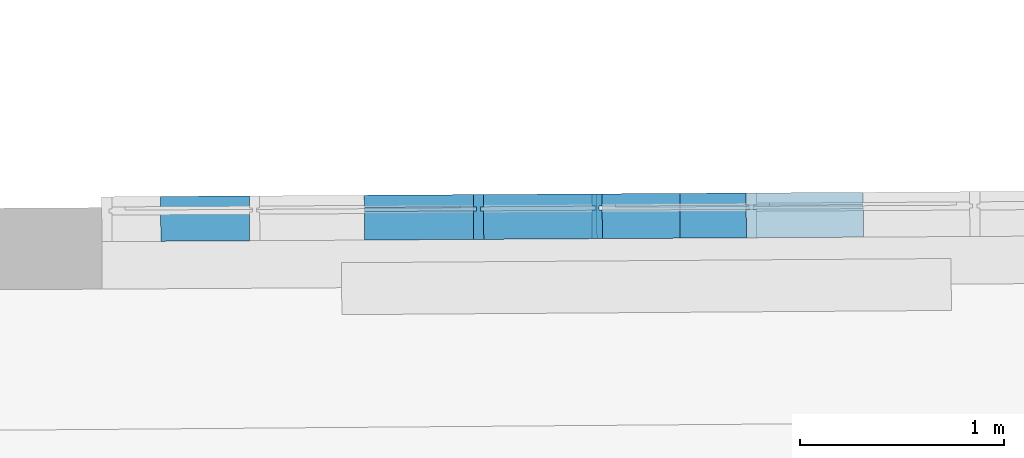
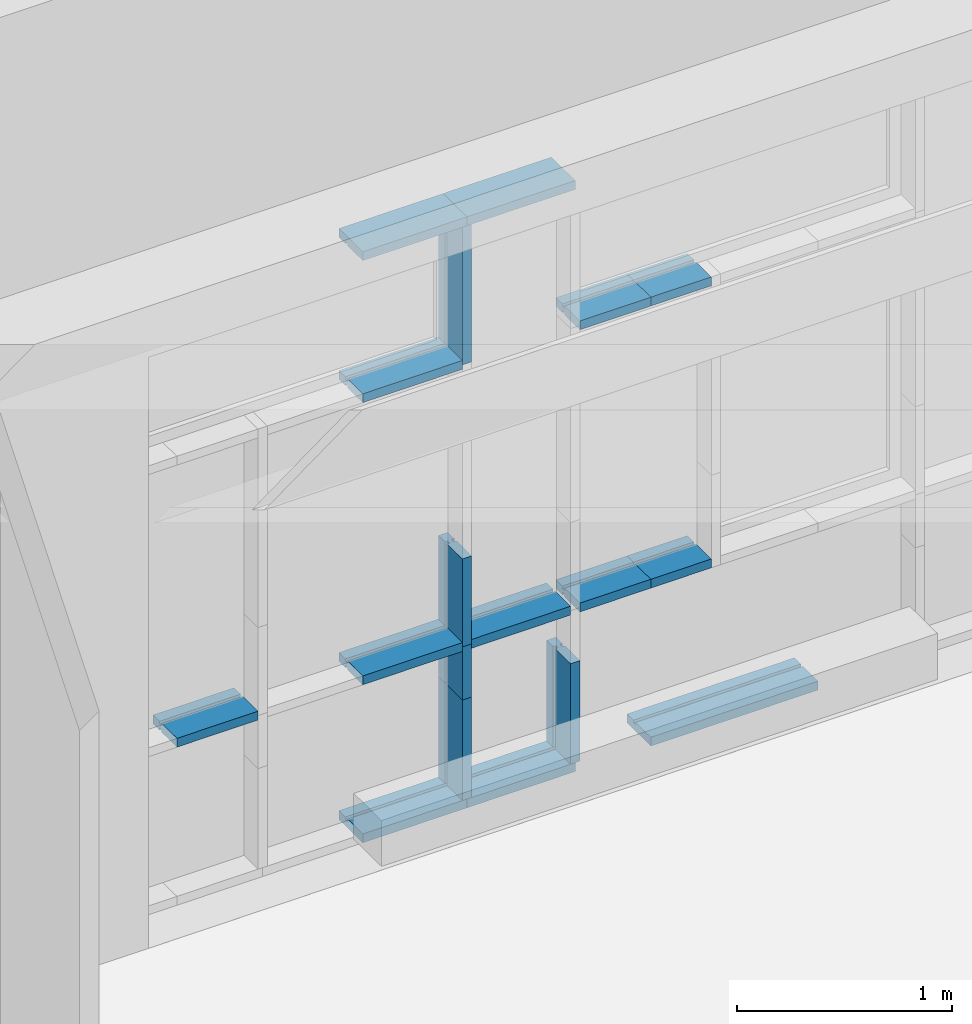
# One storey, part 163 of 196: 18 building element parts, 1 element without a shape of its own.
"""IFC2X3 building model written with IfcOpenShell, lengths in metres."""

from ifc_helpers import new_model, entity, si_unit, converted_unit, derived_unit, money_unit, direction, frame, origin_with_axes, place, context, subcontext, project, spatial, faceted_brep, material, type_object, element, aggregate, save


model = new_model("IFC2X3")

# Units and contexts
model_context = context("Model", 3, precision=1e-05, world=origin_with_axes(), true_north=direction((0.0, 1.0)))
body_context = subcontext(model_context, "Body", "Model", "MODEL_VIEW")
ifc_project = project(units=[si_unit("LENGTHUNIT", "METRE"), si_unit("AREAUNIT", "SQUARE_METRE"), si_unit("VOLUMEUNIT", "CUBIC_METRE"), converted_unit("PLANEANGLEUNIT", "DEGREE", entity("IfcPlaneAngleMeasure", 0.0174532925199), si_unit("PLANEANGLEUNIT", "RADIAN"), dimensions=[0, 0, 0, 0, 0, 0, 0]), money_unit("EUR"), converted_unit("TIMEUNIT", "Year", entity("IfcTimeMeasure", 31556926.0), si_unit("TIMEUNIT", "SECOND"), dimensions=[0, 0, 1, 0, 0, 0, 0]), si_unit("MASSUNIT", "GRAM", prefix="KILO"), si_unit("THERMODYNAMICTEMPERATUREUNIT", "DEGREE_CELSIUS"), si_unit("LUMINOUSINTENSITYUNIT", "LUMEN"), si_unit("ENERGYUNIT", "JOULE", prefix="MEGA"), derived_unit("THERMALCONDUCTANCEUNIT", [(si_unit("POWERUNIT", "WATT"), 1), (si_unit("LENGTHUNIT", "METRE"), -1), (si_unit("THERMODYNAMICTEMPERATUREUNIT", "KELVIN"), -1)]), derived_unit("SPECIFICHEATCAPACITYUNIT", [(si_unit("ENERGYUNIT", "JOULE"), 1), (si_unit("MASSUNIT", "GRAM", prefix="KILO"), -1), (si_unit("THERMODYNAMICTEMPERATUREUNIT", "KELVIN"), -1)]), derived_unit("MASSDENSITYUNIT", [(si_unit("MASSUNIT", "GRAM", prefix="KILO"), 1), (si_unit("VOLUMEUNIT", "CUBIC_METRE"), -1)])], contexts=[model_context])

# Site, building, storey
site_placement = place(None, origin_with_axes())
site = spatial("IfcSite", under=ifc_project, at=site_placement, Name="Gelände", CompositionType="ELEMENT")
building_placement = place(site_placement, origin_with_axes())
building = spatial("IfcBuilding", under=site, at=building_placement, Name="Gebäude", CompositionType="ELEMENT")
storey_placement = place(building_placement, frame((0.0, 0.0, -3.0), z_axis=(0.0, 0.0, 1.0), x_axis=(1.0, 0.0, 0.0)))
storey = spatial("IfcBuildingStorey", under=building, at=storey_placement, Name="KELLERGESCHOSS", CompositionType="ELEMENT", Elevation=-3.0)

# Proxy, building element parts
building_element_proxy_type = type_object("IfcBuildingElementProxyType", Name="Fassadentyp", PredefinedType="NOTDEFINED")
proxy_placement = place(storey_placement, frame((-23.6479994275, 53.9595773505, 0.421025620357), z_axis=(0.0, 0.0, 1.0), x_axis=(1.0, 0.0, 0.0)))
proxy = element("IfcBuildingElementProxy", 1, at=proxy_placement, inside=storey, type_object=building_element_proxy_type, Name="Fassade-002")
ifc_material = material(Name="53_Metall, Aluminium")
building_element_part_1_placement = place(proxy_placement, origin_with_axes())
building_element_part_1 = element("IfcBuildingElementPart", 2, at=building_element_part_1_placement, material=ifc_material, Name="53_Metall, Aluminium", context=body_context, shape_type="Brep", body=[
    faceted_brep([(-0.00820228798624, -0.0100486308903, 2.50999998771), (-0.00820228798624, -0.0100486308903, 2.49499998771), (-0.00737522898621, -0.150046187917, 2.49499998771), (-0.00737522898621, -0.150046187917, 2.54499998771), (-0.00820228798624, -0.0100486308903, 2.54499998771), (-0.00820228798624, -0.0100486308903, 2.52999998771), (-0.00832043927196, 0.00995102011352, 2.52999998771), (-0.00832043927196, 0.00995102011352, 2.54499998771), (-0.00867489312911, 0.0699499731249, 2.54499998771), (-0.00867489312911, 0.0699499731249, 2.49499998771), (-0.00832043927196, 0.00995102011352, 2.49499998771), (-0.00832043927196, 0.00995102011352, 2.50999998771), (0.527546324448, -0.00688360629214, 2.50999998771), (0.527546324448, -0.00688360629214, 2.49499998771), (0.528373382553, -0.146881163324, 2.49499998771), (0.528373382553, -0.146881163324, 2.54499998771), (0.527546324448, -0.00688360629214, 2.54499998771), (0.527546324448, -0.00688360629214, 2.52999998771), (0.52742817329, 0.0131160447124, 2.52999998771), (0.52742817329, 0.0131160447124, 2.54499998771), (0.527073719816, 0.0731149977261, 2.54499998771), (0.527073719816, 0.0731149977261, 2.49499998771), (0.52742817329, 0.0131160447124, 2.49499998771), (0.52742817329, 0.0131160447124, 2.50999998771)], [[[0, 1, 2, 3, 4, 5, 6, 7, 8, 9, 10, 11]], [[1, 0, 12, 13]], [[1, 13, 14, 2]], [[2, 14, 15, 3]], [[4, 3, 15, 16]], [[4, 16, 17, 5]], [[5, 17, 18, 6]], [[7, 6, 18, 19]], [[19, 20, 8, 7]], [[8, 20, 21, 9]], [[22, 10, 9, 21]], [[11, 10, 22, 23]], [[0, 11, 23, 12]], [[23, 22, 21, 20, 19, 18, 17, 16, 15, 14, 13, 12]]]),
])
building_element_part_2_placement = place(proxy_placement, origin_with_axes())
building_element_part_2 = element("IfcBuildingElementPart", 3, at=building_element_part_2_placement, material=ifc_material, Name="53_Metall, Aluminium", context=body_context, shape_type="Brep", body=[
    faceted_brep([(1.54177066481, -0.000891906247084, 2.50999998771), (1.54177066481, -0.000891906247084, 2.49499998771), (1.54259772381, -0.140889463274, 2.49499998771), (1.54259772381, -0.140889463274, 2.54499998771), (1.54177066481, -0.000891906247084, 2.54499998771), (1.54177066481, -0.000891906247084, 2.52999998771), (1.54165251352, 0.0191077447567, 2.52999998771), (1.54165251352, 0.0191077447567, 2.54499998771), (1.54129805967, 0.0791066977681, 2.54499998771), (1.54129805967, 0.0791066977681, 2.49499998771), (1.54165251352, 0.0191077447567, 2.49499998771), (1.54165251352, 0.0191077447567, 2.50999998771), (1.86695947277, 0.00102920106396, 2.50999998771), (1.86695947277, 0.00102920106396, 2.49499998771), (1.86778652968, -0.138968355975, 2.49499998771), (1.86778652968, -0.138968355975, 2.54499998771), (1.86695947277, 0.00102920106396, 2.54499998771), (1.86695947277, 0.00102920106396, 2.52999998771), (1.86684132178, 0.0210288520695, 2.52999998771), (1.86684132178, 0.0210288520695, 2.54499998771), (1.86648686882, 0.0810278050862, 2.54499998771), (1.86648686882, 0.0810278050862, 2.49499998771), (1.86684132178, 0.0210288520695, 2.49499998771), (1.86684132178, 0.0210288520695, 2.50999998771)], [[[0, 1, 2, 3, 4, 5, 6, 7, 8, 9, 10, 11]], [[1, 0, 12, 13]], [[1, 13, 14, 2]], [[2, 14, 15, 3]], [[4, 3, 15, 16]], [[4, 16, 17, 5]], [[5, 17, 18, 6]], [[7, 6, 18, 19]], [[19, 20, 8, 7]], [[8, 20, 21, 9]], [[22, 10, 9, 21]], [[11, 10, 22, 23]], [[0, 11, 23, 12]], [[23, 22, 21, 20, 19, 18, 17, 16, 15, 14, 13, 12]]]),
])
building_element_part_3_placement = place(proxy_placement, origin_with_axes())
building_element_part_3 = element("IfcBuildingElementPart", 4, at=building_element_part_3_placement, material=ifc_material, Name="53_Metall, Aluminium", context=body_context, shape_type="Brep", body=[
    faceted_brep([(1.54177066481, -0.000891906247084, 0.034999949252), (1.54165251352, 0.0191077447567, 0.034999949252), (1.54165251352, 0.0191077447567, 0.049999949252), (1.54129805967, 0.0791066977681, 0.049999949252), (1.54129805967, 0.0791066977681, -5.07479946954e-08), (1.54259772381, -0.140889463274, -5.07479946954e-08), (1.54259772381, -0.140889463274, 0.049999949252), (1.54177066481, -0.000891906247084, 0.049999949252), (2.44175496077, 0.00442490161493, 0.034999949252), (2.44163680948, 0.0244245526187, 0.034999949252), (2.44163680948, 0.0244245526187, 0.049999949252), (2.44128235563, 0.0844235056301, 0.049999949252), (2.44128235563, 0.0844235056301, -5.07479946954e-08), (2.44258201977, -0.135572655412, -5.07479946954e-08), (2.44258201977, -0.135572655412, 0.049999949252), (2.44175496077, 0.00442490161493, 0.049999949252)], [[[0, 1, 2, 3, 4, 5, 6, 7]], [[1, 0, 8, 9]], [[10, 2, 1, 9]], [[2, 10, 11, 3]], [[12, 4, 3, 11]], [[13, 5, 4, 12]], [[14, 6, 5, 13]], [[15, 7, 6, 14]], [[0, 7, 15, 8]], [[8, 15, 14, 13, 12, 11, 10, 9]]]),
])
building_element_part_4_placement = place(proxy_placement, origin_with_axes())
building_element_part_4 = element("IfcBuildingElementPart", 5, at=building_element_part_4_placement, material=ifc_material, Name="53_Metall, Aluminium", context=body_context, shape_type="Brep", body=[
    faceted_brep([(0.542546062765, -0.00679499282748, 3.2999998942), (0.527546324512, -0.00688360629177, 3.2999998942), (0.528373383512, -0.146881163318, 3.2999998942), (0.578372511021, -0.146585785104, 3.2999998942), (0.577545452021, -0.00658822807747, 3.2999998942), (0.562545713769, -0.00667684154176, 3.2999998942), (0.562427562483, 0.013322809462, 3.2999998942), (0.577427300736, 0.0134114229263, 3.2999998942), (0.577072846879, 0.0734103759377, 3.2999998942), (0.527073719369, 0.0731149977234, 3.2999998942), (0.527428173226, 0.013116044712, 3.2999998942), (0.542427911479, 0.0132046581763, 3.2999998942), (0.542546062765, -0.00679499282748, 2.51999998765), (0.527546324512, -0.00688360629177, 2.51999998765), (0.528373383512, -0.146881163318, 2.51999998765), (0.578372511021, -0.146585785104, 2.51999998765), (0.577545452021, -0.00658822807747, 2.51999998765), (0.562545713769, -0.00667684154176, 2.51999998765), (0.562427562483, 0.013322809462, 2.51999998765), (0.577427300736, 0.0134114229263, 2.51999998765), (0.577072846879, 0.0734103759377, 2.51999998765), (0.527073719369, 0.0731149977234, 2.51999998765), (0.527428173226, 0.013116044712, 2.51999998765), (0.542427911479, 0.0132046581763, 2.51999998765)], [[[0, 1, 2, 3, 4, 5, 6, 7, 8, 9, 10, 11]], [[1, 0, 12, 13]], [[1, 13, 14, 2]], [[3, 2, 14, 15]], [[4, 3, 15, 16]], [[4, 16, 17, 5]], [[5, 17, 18, 6]], [[7, 6, 18, 19]], [[19, 20, 8, 7]], [[9, 8, 20, 21]], [[22, 10, 9, 21]], [[11, 10, 22, 23]], [[0, 11, 23, 12]], [[23, 22, 21, 20, 19, 18, 17, 16, 15, 14, 13, 12]]]),
])
building_element_part_5_placement = place(proxy_placement, origin_with_axes())
building_element_part_5 = element("IfcBuildingElementPart", 6, at=building_element_part_5_placement, material=ifc_material, Name="53_Metall, Aluminium", context=body_context, shape_type="Brep", body=[
    faceted_brep([(-0.00820228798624, -0.0100486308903, 0.034999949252), (-0.00832043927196, 0.00995102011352, 0.034999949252), (-0.00832043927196, 0.00995102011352, 0.049999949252), (-0.00867489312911, 0.0699499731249, 0.049999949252), (-0.00867489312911, 0.0699499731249, -5.07479942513e-08), (-0.00737522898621, -0.150046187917, -5.07479942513e-08), (-0.00737522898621, -0.150046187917, 0.049999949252), (-0.00820228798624, -0.0100486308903, 0.049999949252), (0.552545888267, -0.00673591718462, 0.034999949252), (0.552427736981, 0.0132637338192, 0.034999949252), (0.552427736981, 0.0132637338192, 0.049999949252), (0.552073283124, 0.0732626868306, 0.049999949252), (0.552073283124, 0.0732626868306, -5.07479942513e-08), (0.553372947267, -0.146733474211, -5.07479942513e-08), (0.553372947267, -0.146733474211, 0.049999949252), (0.552545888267, -0.00673591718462, 0.049999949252)], [[[0, 1, 2, 3, 4, 5, 6, 7]], [[1, 0, 8, 9]], [[10, 2, 1, 9]], [[2, 10, 11, 3]], [[12, 4, 3, 11]], [[13, 5, 4, 12]], [[14, 6, 5, 13]], [[15, 7, 6, 14]], [[0, 7, 15, 8]], [[8, 15, 14, 13, 12, 11, 10, 9]]]),
])
building_element_part_6_placement = place(proxy_placement, origin_with_axes())
building_element_part_6 = element("IfcBuildingElementPart", 7, at=building_element_part_6_placement, material=ifc_material, Name="53_Metall, Aluminium", context=body_context, shape_type="Brep", body=[
    faceted_brep([(1.15984102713, -0.00314821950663, 2.50999998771), (1.15984102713, -0.00314821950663, 2.49499998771), (1.16066808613, -0.143145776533, 2.49499998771), (1.16066808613, -0.143145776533, 2.54499998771), (1.15984102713, -0.00314821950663, 2.54499998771), (1.15984102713, -0.00314821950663, 2.52999998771), (1.15972287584, 0.0168514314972, 2.52999998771), (1.15972287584, 0.0168514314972, 2.54499998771), (1.15936842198, 0.0768503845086, 2.54499998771), (1.15936842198, 0.0768503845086, 2.49499998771), (1.15972287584, 0.0168514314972, 2.49499998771), (1.15972287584, 0.0168514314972, 2.50999998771), (1.54177066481, -0.000891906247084, 2.50999998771), (1.54177066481, -0.000891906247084, 2.49499998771), (1.54259772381, -0.140889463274, 2.49499998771), (1.54259772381, -0.140889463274, 2.54499998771), (1.54177066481, -0.000891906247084, 2.54499998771), (1.54177066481, -0.000891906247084, 2.52999998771), (1.54165251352, 0.0191077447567, 2.52999998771), (1.54165251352, 0.0191077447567, 2.54499998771), (1.54129805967, 0.0791066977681, 2.54499998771), (1.54129805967, 0.0791066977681, 2.49499998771), (1.54165251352, 0.0191077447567, 2.49499998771), (1.54165251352, 0.0191077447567, 2.50999998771)], [[[0, 1, 2, 3, 4, 5, 6, 7, 8, 9, 10, 11]], [[1, 0, 12, 13]], [[1, 13, 14, 2]], [[3, 2, 14, 15]], [[4, 3, 15, 16]], [[4, 16, 17, 5]], [[5, 17, 18, 6]], [[7, 6, 18, 19]], [[19, 20, 8, 7]], [[9, 8, 20, 21]], [[22, 10, 9, 21]], [[11, 10, 22, 23]], [[0, 11, 23, 12]], [[23, 22, 21, 20, 19, 18, 17, 16, 15, 14, 13, 12]]]),
])
building_element_part_7_placement = place(proxy_placement, origin_with_axes())
building_element_part_7 = element("IfcBuildingElementPart", 8, at=building_element_part_7_placement, material=ifc_material, Name="53_Metall, Aluminium", context=body_context, shape_type="Brep", body=[
    faceted_brep([(0.542546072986, -0.0067949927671, 1.41999998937), (0.527546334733, -0.00688360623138, 1.41999998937), (0.528373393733, -0.146881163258, 1.41999998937), (0.578372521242, -0.146585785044, 1.41999998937), (0.577545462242, -0.00658822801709, 1.41999998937), (0.562545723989, -0.00667684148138, 1.41999998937), (0.562427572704, 0.0133228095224, 1.41999998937), (0.577427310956, 0.0134114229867, 1.41999998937), (0.577072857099, 0.0734103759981, 1.41999998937), (0.52707372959, 0.0731149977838, 1.41999998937), (0.527428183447, 0.0131160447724, 1.41999998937), (0.5424279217, 0.0132046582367, 1.41999998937), (0.542546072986, -0.0067949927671, 0.920851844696), (0.527546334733, -0.00688360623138, 0.920851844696), (0.528373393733, -0.146881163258, 0.920851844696), (0.578372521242, -0.146585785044, 0.920851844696), (0.577545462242, -0.00658822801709, 0.920851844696), (0.562545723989, -0.00667684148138, 0.920851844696), (0.562427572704, 0.0133228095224, 0.920851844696), (0.577427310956, 0.0134114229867, 0.920851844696), (0.577072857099, 0.0734103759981, 0.920851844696), (0.52707372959, 0.0731149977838, 0.920851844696), (0.527428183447, 0.0131160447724, 0.920851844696), (0.5424279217, 0.0132046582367, 0.920851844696)], [[[0, 1, 2, 3, 4, 5, 6, 7, 8, 9, 10, 11]], [[1, 0, 12, 13]], [[1, 13, 14, 2]], [[3, 2, 14, 15]], [[4, 3, 15, 16]], [[4, 16, 17, 5]], [[5, 17, 18, 6]], [[7, 6, 18, 19]], [[19, 20, 8, 7]], [[9, 8, 20, 21]], [[22, 10, 9, 21]], [[11, 10, 22, 23]], [[0, 11, 23, 12]], [[23, 22, 21, 20, 19, 18, 17, 16, 15, 14, 13, 12]]]),
])
building_element_part_8_placement = place(proxy_placement, origin_with_axes())
building_element_part_8 = element("IfcBuildingElementPart", 9, at=building_element_part_8_placement, material=ifc_material, Name="53_Metall, Aluminium", context=body_context, shape_type="Brep", body=[
    faceted_brep([(-0.00820227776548, -0.0100486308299, 0.910851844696), (-0.00820227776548, -0.0100486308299, 0.895851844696), (-0.00737521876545, -0.150046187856, 0.895851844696), (-0.00737521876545, -0.150046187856, 0.945851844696), (-0.00820227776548, -0.0100486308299, 0.945851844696), (-0.00820227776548, -0.0100486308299, 0.930851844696), (-0.0083204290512, 0.0099510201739, 0.930851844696), (-0.0083204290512, 0.0099510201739, 0.945851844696), (-0.00867488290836, 0.0699499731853, 0.945851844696), (-0.00867488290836, 0.0699499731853, 0.895851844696), (-0.0083204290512, 0.0099510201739, 0.895851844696), (-0.0083204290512, 0.0099510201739, 0.910851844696), (0.527546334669, -0.00688360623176, 0.910851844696), (0.527546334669, -0.00688360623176, 0.895851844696), (0.528373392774, -0.146881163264, 0.895851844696), (0.528373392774, -0.146881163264, 0.945851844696), (0.527546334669, -0.00688360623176, 0.945851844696), (0.527546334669, -0.00688360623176, 0.930851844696), (0.527428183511, 0.0131160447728, 0.930851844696), (0.527428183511, 0.0131160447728, 0.945851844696), (0.527073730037, 0.0731149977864, 0.945851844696), (0.527073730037, 0.0731149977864, 0.895851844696), (0.527428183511, 0.0131160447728, 0.895851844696), (0.527428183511, 0.0131160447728, 0.910851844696)], [[[0, 1, 2, 3, 4, 5, 6, 7, 8, 9, 10, 11]], [[1, 0, 12, 13]], [[1, 13, 14, 2]], [[2, 14, 15, 3]], [[4, 3, 15, 16]], [[4, 16, 17, 5]], [[5, 17, 18, 6]], [[7, 6, 18, 19]], [[19, 20, 8, 7]], [[8, 20, 21, 9]], [[22, 10, 9, 21]], [[11, 10, 22, 23]], [[0, 11, 23, 12]], [[23, 22, 21, 20, 19, 18, 17, 16, 15, 14, 13, 12]]]),
])
building_element_part_9_placement = place(proxy_placement, origin_with_axes())
building_element_part_9 = element("IfcBuildingElementPart", 10, at=building_element_part_9_placement, material=ifc_material, Name="53_Metall, Aluminium", context=body_context, shape_type="Brep", body=[
    faceted_brep([(0.542546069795, -0.00679499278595, 0.920851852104), (0.527546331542, -0.00688360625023, 0.920851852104), (0.528373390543, -0.146881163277, 0.920851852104), (0.578372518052, -0.146585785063, 0.920851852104), (0.577545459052, -0.00658822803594, 0.920851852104), (0.562545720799, -0.00667684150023, 0.920851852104), (0.562427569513, 0.0133228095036, 0.920851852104), (0.577427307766, 0.0134114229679, 0.920851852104), (0.577072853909, 0.0734103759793, 0.920851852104), (0.5270737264, 0.073114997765, 0.920851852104), (0.527428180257, 0.0131160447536, 0.920851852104), (0.54242791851, 0.0132046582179, 0.920851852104), (0.542546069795, -0.00679499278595, 0.619999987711), (0.527546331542, -0.00688360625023, 0.619999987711), (0.528373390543, -0.146881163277, 0.619999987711), (0.578372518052, -0.146585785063, 0.619999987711), (0.577545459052, -0.00658822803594, 0.619999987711), (0.562545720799, -0.00667684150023, 0.619999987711), (0.562427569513, 0.0133228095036, 0.619999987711), (0.577427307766, 0.0134114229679, 0.619999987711), (0.577072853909, 0.0734103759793, 0.619999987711), (0.5270737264, 0.073114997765, 0.619999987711), (0.527428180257, 0.0131160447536, 0.619999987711), (0.54242791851, 0.0132046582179, 0.619999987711)], [[[0, 1, 2, 3, 4, 5, 6, 7, 8, 9, 10, 11]], [[1, 0, 12, 13]], [[1, 13, 14, 2]], [[3, 2, 14, 15]], [[4, 3, 15, 16]], [[4, 16, 17, 5]], [[5, 17, 18, 6]], [[7, 6, 18, 19]], [[19, 20, 8, 7]], [[9, 8, 20, 21]], [[22, 10, 9, 21]], [[11, 10, 22, 23]], [[0, 11, 23, 12]], [[23, 22, 21, 20, 19, 18, 17, 16, 15, 14, 13, 12]]]),
])
building_element_part_10_placement = place(proxy_placement, origin_with_axes())
building_element_part_10 = element("IfcBuildingElementPart", 11, at=building_element_part_10_placement, material=ifc_material, Name="53_Metall, Aluminium", context=body_context, shape_type="Brep", body=[
    faceted_brep([(1.54177067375, -0.000891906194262, 0.910851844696), (1.54177067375, -0.000891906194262, 0.895851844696), (1.54259773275, -0.140889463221, 0.895851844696), (1.54259773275, -0.140889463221, 0.945851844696), (1.54177067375, -0.000891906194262, 0.945851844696), (1.54177067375, -0.000891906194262, 0.930851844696), (1.54165252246, 0.0191077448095, 0.930851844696), (1.54165252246, 0.0191077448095, 0.945851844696), (1.54129806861, 0.0791066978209, 0.945851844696), (1.54129806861, 0.0791066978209, 0.895851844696), (1.54165252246, 0.0191077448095, 0.895851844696), (1.54165252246, 0.0191077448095, 0.910851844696), (1.86695948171, 0.00102920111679, 0.910851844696), (1.86695948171, 0.00102920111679, 0.895851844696), (1.86778653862, -0.138968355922, 0.895851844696), (1.86778653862, -0.138968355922, 0.945851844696), (1.86695948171, 0.00102920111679, 0.945851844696), (1.86695948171, 0.00102920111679, 0.930851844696), (1.86684133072, 0.0210288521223, 0.930851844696), (1.86684133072, 0.0210288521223, 0.945851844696), (1.86648687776, 0.081027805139, 0.945851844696), (1.86648687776, 0.081027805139, 0.895851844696), (1.86684133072, 0.0210288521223, 0.895851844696), (1.86684133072, 0.0210288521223, 0.910851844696)], [[[0, 1, 2, 3, 4, 5, 6, 7, 8, 9, 10, 11]], [[1, 0, 12, 13]], [[1, 13, 14, 2]], [[2, 14, 15, 3]], [[4, 3, 15, 16]], [[4, 16, 17, 5]], [[5, 17, 18, 6]], [[7, 6, 18, 19]], [[19, 20, 8, 7]], [[8, 20, 21, 9]], [[22, 10, 9, 21]], [[11, 10, 22, 23]], [[0, 11, 23, 12]], [[23, 22, 21, 20, 19, 18, 17, 16, 15, 14, 13, 12]]]),
])
building_element_part_11_placement = place(proxy_placement, origin_with_axes())
building_element_part_11 = element("IfcBuildingElementPart", 12, at=building_element_part_11_placement, material=ifc_material, Name="53_Metall, Aluminium", context=body_context, shape_type="Brep", body=[
    faceted_brep([(1.15984102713, -0.00314821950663, 0.910851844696), (1.15984102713, -0.00314821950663, 0.895851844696), (1.16066808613, -0.143145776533, 0.895851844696), (1.16066808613, -0.143145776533, 0.945851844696), (1.15984102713, -0.00314821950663, 0.945851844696), (1.15984102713, -0.00314821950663, 0.930851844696), (1.15972287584, 0.0168514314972, 0.930851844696), (1.15972287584, 0.0168514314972, 0.945851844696), (1.15936842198, 0.0768503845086, 0.945851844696), (1.15936842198, 0.0768503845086, 0.895851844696), (1.15972287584, 0.0168514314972, 0.895851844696), (1.15972287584, 0.0168514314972, 0.910851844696), (1.54177066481, -0.000891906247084, 0.910851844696), (1.54177066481, -0.000891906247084, 0.895851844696), (1.54259772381, -0.140889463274, 0.895851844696), (1.54259772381, -0.140889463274, 0.945851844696), (1.54177066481, -0.000891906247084, 0.945851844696), (1.54177066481, -0.000891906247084, 0.930851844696), (1.54165251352, 0.0191077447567, 0.930851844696), (1.54165251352, 0.0191077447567, 0.945851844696), (1.54129805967, 0.0791066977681, 0.945851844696), (1.54129805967, 0.0791066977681, 0.895851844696), (1.54165251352, 0.0191077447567, 0.895851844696), (1.54165251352, 0.0191077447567, 0.910851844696)], [[[0, 1, 2, 3, 4, 5, 6, 7, 8, 9, 10, 11]], [[1, 0, 12, 13]], [[1, 13, 14, 2]], [[3, 2, 14, 15]], [[4, 3, 15, 16]], [[4, 16, 17, 5]], [[5, 17, 18, 6]], [[7, 6, 18, 19]], [[19, 20, 8, 7]], [[9, 8, 20, 21]], [[22, 10, 9, 21]], [[11, 10, 22, 23]], [[0, 11, 23, 12]], [[23, 22, 21, 20, 19, 18, 17, 16, 15, 14, 13, 12]]]),
])
building_element_part_12_placement = place(proxy_placement, origin_with_axes())
building_element_part_12 = element("IfcBuildingElementPart", 13, at=building_element_part_12_placement, material=ifc_material, Name="53_Metall, Aluminium", context=body_context, shape_type="Brep", body=[
    faceted_brep([(1.12484163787, -0.00335498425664, 0.619999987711), (1.10984189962, -0.00344359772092, 0.619999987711), (1.11066895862, -0.143441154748, 0.619999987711), (1.16066808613, -0.143145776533, 0.619999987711), (1.15984102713, -0.00314821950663, 0.619999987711), (1.14484128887, -0.00323683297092, 0.619999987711), (1.14472313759, 0.0167628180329, 0.619999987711), (1.15972287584, 0.0168514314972, 0.619999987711), (1.15936842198, 0.0768503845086, 0.619999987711), (1.10936929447, 0.0765550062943, 0.619999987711), (1.10972374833, 0.0165560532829, 0.619999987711), (1.12472348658, 0.0166446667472, 0.619999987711), (1.12484163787, -0.00335498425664, 0.0499999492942), (1.10984189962, -0.00344359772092, 0.0499999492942), (1.11066895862, -0.143441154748, 0.049999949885), (1.16066808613, -0.143145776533, 0.049999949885), (1.15984102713, -0.00314821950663, 0.0499999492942), (1.14484128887, -0.00323683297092, 0.0499999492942), (1.14472313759, 0.0167628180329, 0.0499999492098), (1.15972287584, 0.0168514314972, 0.0499999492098), (1.15936842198, 0.0768503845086, 0.0499999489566), (1.10936929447, 0.0765550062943, 0.0499999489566), (1.10972374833, 0.0165560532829, 0.0499999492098), (1.12472348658, 0.0166446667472, 0.0499999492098)], [[[0, 1, 2, 3, 4, 5, 6, 7, 8, 9, 10, 11]], [[1, 0, 12, 13]], [[1, 13, 14, 2]], [[2, 14, 15, 3]], [[4, 3, 15, 16]], [[4, 16, 17, 5]], [[5, 17, 18, 6]], [[7, 6, 18, 19]], [[19, 20, 8, 7]], [[8, 20, 21, 9]], [[22, 10, 9, 21]], [[11, 10, 22, 23]], [[0, 11, 23, 12]], [[23, 22, 21, 20, 19, 18, 17, 16, 15, 14, 13, 12]]]),
])
building_element_part_13_placement = place(proxy_placement, origin_with_axes())
building_element_part_13 = element("IfcBuildingElementPart", 14, at=building_element_part_13_placement, material=ifc_material, Name="53_Metall, Aluminium", context=body_context, shape_type="Brep", body=[
    faceted_brep([(0.552545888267, -0.00673591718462, 3.31499989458), (0.552545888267, -0.00673591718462, 3.29999989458), (0.553372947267, -0.146733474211, 3.29999989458), (0.553372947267, -0.146733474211, 3.34999989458), (0.552073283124, 0.0732626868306, 3.34999989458), (0.552073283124, 0.0732626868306, 3.29999989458), (0.552427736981, 0.0132637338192, 3.29999989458), (0.552427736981, 0.0132637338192, 3.31499989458), (1.13484146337, -0.00329590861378, 3.31499989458), (1.13484146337, -0.00329590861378, 3.29999989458), (1.13566852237, -0.14329346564, 3.29999989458), (1.13566852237, -0.14329346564, 3.34999989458), (1.13436885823, 0.0767026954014, 3.34999989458), (1.13436885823, 0.0767026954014, 3.29999989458), (1.13472331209, 0.01670374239, 3.29999989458), (1.13472331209, 0.01670374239, 3.31499989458)], [[[0, 1, 2, 3, 4, 5, 6, 7]], [[0, 8, 9, 1]], [[9, 10, 2, 1]], [[10, 11, 3, 2]], [[11, 12, 4, 3]], [[12, 13, 5, 4]], [[6, 5, 13, 14]], [[14, 15, 7, 6]], [[7, 15, 8, 0]], [[8, 15, 14, 13, 12, 11, 10, 9]]]),
])
building_element_part_14_placement = place(proxy_placement, origin_with_axes())
building_element_part_14 = element("IfcBuildingElementPart", 15, at=building_element_part_14_placement, material=ifc_material, Name="53_Metall, Aluminium", context=body_context, shape_type="Brep", body=[
    faceted_brep([(0.577545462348, -0.00658822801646, 0.910851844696), (0.577545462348, -0.00658822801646, 0.895851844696), (0.578372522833, -0.146585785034, 0.895851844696), (0.578372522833, -0.146585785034, 0.945851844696), (0.577545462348, -0.00658822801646, 0.945851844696), (0.577545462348, -0.00658822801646, 0.930851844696), (0.57742731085, 0.0134114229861, 0.930851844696), (0.57742731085, 0.0134114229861, 0.945851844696), (0.577072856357, 0.0734103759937, 0.945851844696), (0.577072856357, 0.0734103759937, 0.895851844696), (0.57742731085, 0.0134114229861, 0.895851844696), (0.57742731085, 0.0134114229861, 0.910851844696), (1.10984190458, -0.00344359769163, 0.910851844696), (1.10984190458, -0.00344359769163, 0.895851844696), (1.11066896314, -0.143441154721, 0.895851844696), (1.11066896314, -0.143441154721, 0.945851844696), (1.10984190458, -0.00344359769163, 0.945851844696), (1.10984190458, -0.00344359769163, 0.930851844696), (1.10972375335, 0.0165560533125, 0.930851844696), (1.10972375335, 0.0165560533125, 0.945851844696), (1.10936929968, 0.076555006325, 0.945851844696), (1.10936929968, 0.076555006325, 0.895851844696), (1.10972375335, 0.0165560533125, 0.895851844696), (1.10972375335, 0.0165560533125, 0.910851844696)], [[[0, 1, 2, 3, 4, 5, 6, 7, 8, 9, 10, 11]], [[1, 0, 12, 13]], [[1, 13, 14, 2]], [[2, 14, 15, 3]], [[4, 3, 15, 16]], [[4, 16, 17, 5]], [[5, 17, 18, 6]], [[7, 6, 18, 19]], [[19, 20, 8, 7]], [[8, 20, 21, 9]], [[22, 10, 9, 21]], [[11, 10, 22, 23]], [[0, 11, 23, 12]], [[23, 22, 21, 20, 19, 18, 17, 16, 15, 14, 13, 12]]]),
])
building_element_part_15_placement = place(proxy_placement, origin_with_axes())
building_element_part_15 = element("IfcBuildingElementPart", 16, at=building_element_part_15_placement, material=ifc_material, Name="53_Metall, Aluminium", context=body_context, shape_type="Brep", body=[
    faceted_brep([(0.552545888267, -0.00673591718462, 0.034999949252), (0.552427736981, 0.0132637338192, 0.034999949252), (0.552427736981, 0.0132637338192, 0.049999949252), (0.552073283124, 0.0732626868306, 0.049999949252), (0.552073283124, 0.0732626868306, -5.07479946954e-08), (0.553372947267, -0.146733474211, -5.07479946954e-08), (0.553372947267, -0.146733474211, 0.049999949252), (0.552545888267, -0.00673591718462, 0.049999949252), (1.13484146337, -0.00329590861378, 0.034999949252), (1.13472331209, 0.01670374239, 0.034999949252), (1.13472331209, 0.01670374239, 0.049999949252), (1.13436885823, 0.0767026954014, 0.049999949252), (1.13436885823, 0.0767026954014, -5.07479946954e-08), (1.13566852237, -0.14329346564, -5.07479946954e-08), (1.13566852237, -0.14329346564, 0.049999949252), (1.13484146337, -0.00329590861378, 0.049999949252)], [[[0, 1, 2, 3, 4, 5, 6, 7]], [[1, 0, 8, 9]], [[10, 2, 1, 9]], [[2, 10, 11, 3]], [[12, 4, 3, 11]], [[13, 5, 4, 12]], [[14, 6, 5, 13]], [[15, 7, 6, 14]], [[0, 7, 15, 8]], [[8, 15, 14, 13, 12, 11, 10, 9]]]),
])
building_element_part_16_placement = place(proxy_placement, origin_with_axes())
building_element_part_16 = element("IfcBuildingElementPart", 17, at=building_element_part_16_placement, material=ifc_material, Name="53_Metall, Aluminium", context=body_context, shape_type="Brep", body=[
    faceted_brep([(0.542546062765, -0.00679499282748, 0.619999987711), (0.527546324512, -0.00688360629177, 0.619999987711), (0.528373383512, -0.146881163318, 0.619999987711), (0.578372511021, -0.146585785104, 0.619999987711), (0.577545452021, -0.00658822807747, 0.619999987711), (0.562545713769, -0.00667684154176, 0.619999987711), (0.562427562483, 0.013322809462, 0.619999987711), (0.577427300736, 0.0134114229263, 0.619999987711), (0.577072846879, 0.0734103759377, 0.619999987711), (0.527073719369, 0.0731149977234, 0.619999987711), (0.527428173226, 0.013116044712, 0.619999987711), (0.542427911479, 0.0132046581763, 0.619999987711), (0.542546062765, -0.00679499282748, 0.0499999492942), (0.527546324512, -0.00688360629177, 0.0499999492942), (0.528373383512, -0.146881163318, 0.049999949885), (0.578372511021, -0.146585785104, 0.049999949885), (0.577545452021, -0.00658822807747, 0.0499999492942), (0.562545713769, -0.00667684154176, 0.0499999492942), (0.562427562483, 0.013322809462, 0.0499999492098), (0.577427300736, 0.0134114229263, 0.0499999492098), (0.577072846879, 0.0734103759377, 0.0499999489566), (0.527073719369, 0.0731149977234, 0.0499999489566), (0.527428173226, 0.013116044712, 0.0499999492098), (0.542427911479, 0.0132046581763, 0.0499999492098)], [[[0, 1, 2, 3, 4, 5, 6, 7, 8, 9, 10, 11]], [[1, 0, 12, 13]], [[1, 13, 14, 2]], [[2, 14, 15, 3]], [[4, 3, 15, 16]], [[4, 16, 17, 5]], [[5, 17, 18, 6]], [[7, 6, 18, 19]], [[19, 20, 8, 7]], [[8, 20, 21, 9]], [[22, 10, 9, 21]], [[11, 10, 22, 23]], [[0, 11, 23, 12]], [[23, 22, 21, 20, 19, 18, 17, 16, 15, 14, 13, 12]]]),
])
building_element_part_17_placement = place(proxy_placement, origin_with_axes())
building_element_part_17 = element("IfcBuildingElementPart", 18, at=building_element_part_17_placement, material=ifc_material, Name="53_Metall, Aluminium", context=body_context, shape_type="Brep", body=[
    faceted_brep([(-0.00820228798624, -0.0100486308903, 3.31499989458), (-0.00820228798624, -0.0100486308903, 3.29999989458), (-0.00737522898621, -0.150046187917, 3.29999989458), (-0.00737522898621, -0.150046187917, 3.34999989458), (-0.00867489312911, 0.0699499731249, 3.34999989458), (-0.00867489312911, 0.0699499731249, 3.29999989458), (-0.00832043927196, 0.00995102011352, 3.29999989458), (-0.00832043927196, 0.00995102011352, 3.31499989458), (0.552545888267, -0.00673591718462, 3.31499989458), (0.552545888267, -0.00673591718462, 3.29999989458), (0.553372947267, -0.146733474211, 3.29999989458), (0.553372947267, -0.146733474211, 3.34999989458), (0.552073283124, 0.0732626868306, 3.34999989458), (0.552073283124, 0.0732626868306, 3.29999989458), (0.552427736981, 0.0132637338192, 3.29999989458), (0.552427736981, 0.0132637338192, 3.31499989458)], [[[0, 1, 2, 3, 4, 5, 6, 7]], [[0, 8, 9, 1]], [[9, 10, 2, 1]], [[10, 11, 3, 2]], [[11, 12, 4, 3]], [[12, 13, 5, 4]], [[6, 5, 13, 14]], [[14, 15, 7, 6]], [[7, 15, 8, 0]], [[8, 15, 14, 13, 12, 11, 10, 9]]]),
])
building_element_part_18_placement = place(proxy_placement, origin_with_axes())
building_element_part_18 = element("IfcBuildingElementPart", 19, at=building_element_part_18_placement, material=ifc_material, Name="53_Metall, Aluminium", context=body_context, shape_type="Brep", body=[
    faceted_brep([(-1.00818483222, -0.015956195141, 0.910851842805), (-1.00818483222, -0.015956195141, 0.895851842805), (-1.00735777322, -0.155953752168, 0.895851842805), (-1.00735777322, -0.155953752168, 0.945851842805), (-1.00818483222, -0.015956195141, 0.945851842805), (-1.00818483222, -0.015956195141, 0.930851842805), (-1.0083029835, 0.0040434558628, 0.930851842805), (-1.0083029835, 0.0040434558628, 0.945851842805), (-1.00865743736, 0.0640424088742, 0.945851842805), (-1.00865743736, 0.0640424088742, 0.895851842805), (-1.0083029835, 0.0040434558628, 0.895851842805), (-1.0083029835, 0.0040434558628, 0.910851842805), (-0.57191972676, -0.0133788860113, 0.910851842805), (-0.57191972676, -0.0133788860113, 0.895851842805), (-0.57109266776, -0.153376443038, 0.895851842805), (-0.57109266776, -0.153376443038, 0.945851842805), (-0.57191972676, -0.0133788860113, 0.945851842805), (-0.57191972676, -0.0133788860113, 0.930851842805), (-0.572037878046, 0.00662076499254, 0.930851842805), (-0.572037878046, 0.00662076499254, 0.945851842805), (-0.572392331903, 0.0666197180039, 0.945851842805), (-0.572392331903, 0.0666197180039, 0.895851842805), (-0.572037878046, 0.00662076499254, 0.895851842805), (-0.572037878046, 0.00662076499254, 0.910851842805)], [[[0, 1, 2, 3, 4, 5, 6, 7, 8, 9, 10, 11]], [[1, 0, 12, 13]], [[1, 13, 14, 2]], [[2, 14, 15, 3]], [[4, 3, 15, 16]], [[4, 16, 17, 5]], [[5, 17, 18, 6]], [[7, 6, 18, 19]], [[19, 20, 8, 7]], [[8, 20, 21, 9]], [[22, 10, 9, 21]], [[11, 10, 22, 23]], [[0, 11, 23, 12]], [[23, 22, 21, 20, 19, 18, 17, 16, 15, 14, 13, 12]]]),
])
aggregate(proxy, [building_element_part_1, building_element_part_2, building_element_part_3, building_element_part_4, building_element_part_5, building_element_part_6, building_element_part_7, building_element_part_8, building_element_part_9, building_element_part_10, building_element_part_11, building_element_part_12, building_element_part_13, building_element_part_14, building_element_part_15, building_element_part_16, building_element_part_17, building_element_part_18])

save(model, "model.ifc")
